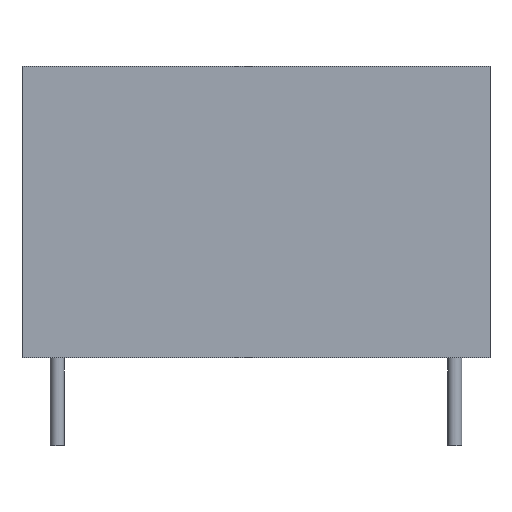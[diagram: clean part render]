
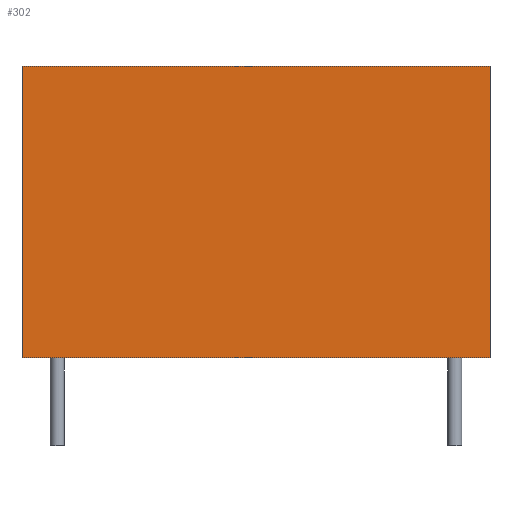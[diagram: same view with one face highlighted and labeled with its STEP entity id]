
A CAD part, front view. The second image highlights one B-rep face of the part: STEP entity #302.
In plain terms, the highlighted planar face has unit normal (0, -1, 0).
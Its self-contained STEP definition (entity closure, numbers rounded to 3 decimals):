
#302=ADVANCED_FACE('',(#308),#303,.T.);
#303=PLANE('',#304);
#304=AXIS2_PLACEMENT_3D('',#305,#306,#307);
#305=CARTESIAN_POINT('',(-1.996,-5.245,0.0));
#306=DIRECTION('',(0.0,-1.0,0.0));
#307=DIRECTION('',(0.,0.,1.));
#308=FACE_OUTER_BOUND('',#309,.T.);
#309=EDGE_LOOP('',(#310,#320,#330,#340));
#313=CARTESIAN_POINT('',(24.496,-5.245,0.0));
#312=VERTEX_POINT('',#313);
#315=CARTESIAN_POINT('',(-1.996,-5.245,0.0));
#314=VERTEX_POINT('',#315);
#311=EDGE_CURVE('',#312,#314,#316,.T.);
#316=LINE('',#313,#318);
#318=VECTOR('',#319,26.492);
#319=DIRECTION('',(-1.0,0.0,0.0));
#310=ORIENTED_EDGE('',*,*,#311,.F.);
#323=CARTESIAN_POINT('',(24.496,-5.245,16.51));
#322=VERTEX_POINT('',#323);
#321=EDGE_CURVE('',#322,#312,#326,.T.);
#326=LINE('',#323,#328);
#328=VECTOR('',#329,16.51);
#329=DIRECTION('',(0.0,0.0,-1.0));
#320=ORIENTED_EDGE('',*,*,#321,.F.);
#333=CARTESIAN_POINT('',(-1.996,-5.245,16.51));
#332=VERTEX_POINT('',#333);
#331=EDGE_CURVE('',#332,#322,#336,.T.);
#336=LINE('',#333,#338);
#338=VECTOR('',#339,26.492);
#339=DIRECTION('',(1.0,0.0,0.0));
#330=ORIENTED_EDGE('',*,*,#331,.F.);
#341=EDGE_CURVE('',#314,#332,#346,.T.);
#346=LINE('',#315,#348);
#348=VECTOR('',#349,16.51);
#349=DIRECTION('',(0.0,0.0,1.0));
#340=ORIENTED_EDGE('',*,*,#341,.F.);
